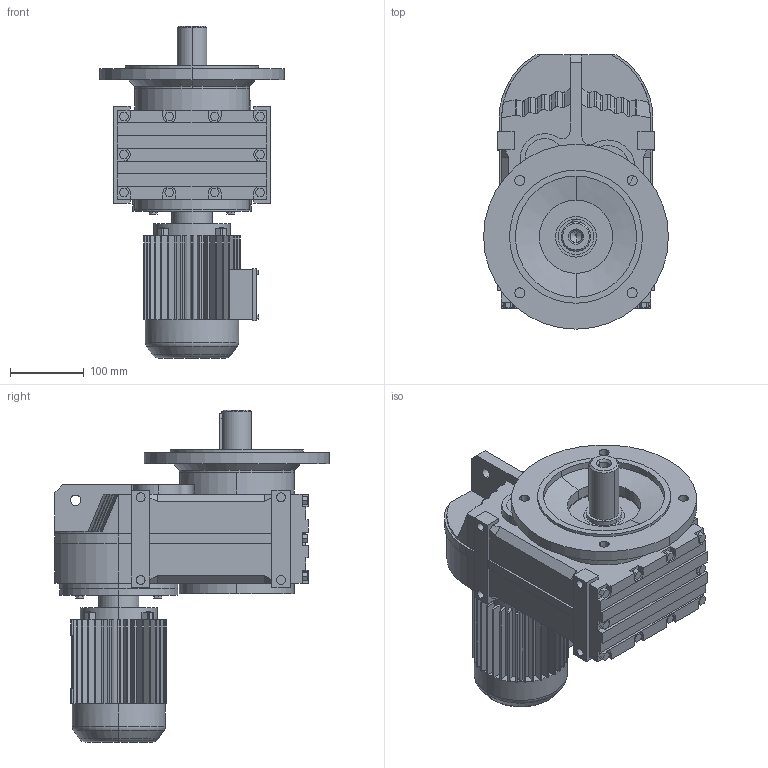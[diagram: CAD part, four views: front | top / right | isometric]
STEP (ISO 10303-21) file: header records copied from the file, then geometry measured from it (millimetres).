
FILE_DESCRIPTION(('Open CASCADE Model'),'2;1');
FILE_NAME('Open CASCADE Shape Model','2018-09-12T10:30:55',('Author'),( 'Open CASCADE'),'Open CASCADE STEP processor 6.3','Open CASCADE 6.3' ,'Unknown');
FILE_SCHEMA(('AUTOMOTIVE_DESIGN_CC2 { 1 2 10303 214 -1 1 5 4 }'));
Length unit declared in the file: millimetre
Products named in the file (5): 31_FF67-Y63S; FA27‵157_67.step; 萇儂_160_Y63S.step; す瑩妗陑粣F_67.step; 楊擘F_67.step
Assembly tree (4 placements, depth 2):
  31_FF67-Y63S
    FA27‵157_67.step
    萇儂_160_Y63S.step
    す瑩妗陑粣F_67.step
    楊擘F_67.step
Bounding box: 250 x 371 x 449 mm (x, y, z)
Volume: 11661851.5 mm3; surface area: 731984.3 mm2
Topology: 4 solids, 4 shells, 815 faces, 2140 edges, 1388 vertices
Faces by surface type: plane 569, cylinder 214, bspline 16, cone 12, torus 4
Entity records: 55033 total; most frequent: CARTESIAN_POINT 14069, DIRECTION 7137, ORIENTED_EDGE 4276, PCURVE 4276, DEFINITIONAL_REPRESENTATION 4276, LINE 3961, VECTOR 3961, EDGE_CURVE 2138
